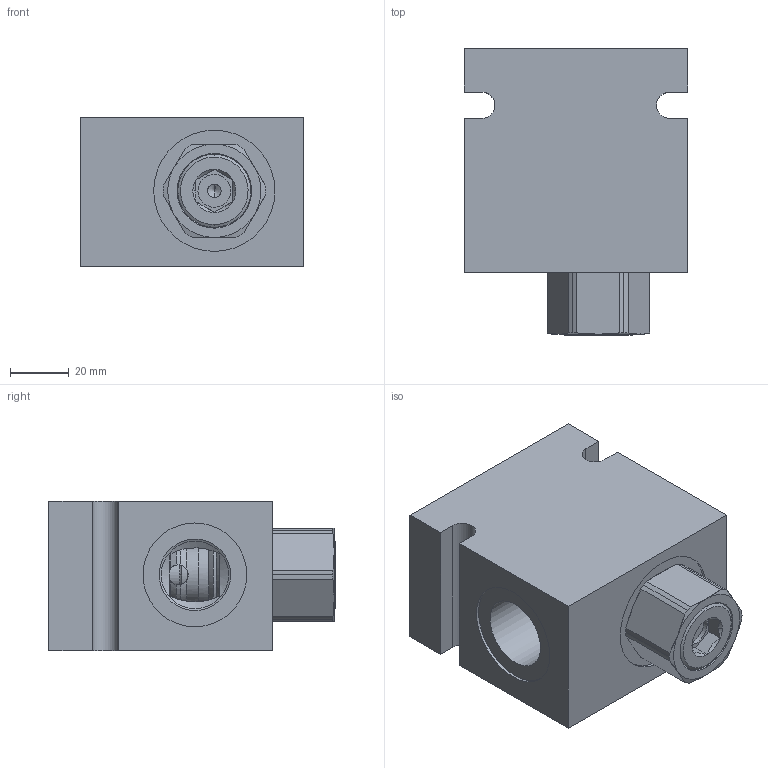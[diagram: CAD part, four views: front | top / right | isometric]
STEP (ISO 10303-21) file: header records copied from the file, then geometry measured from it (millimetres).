
FILE_DESCRIPTION( ( 'Unknown' ), '1' );
FILE_NAME( 'G:/Graphic Design/Graphic Design 2/Data Sheets/MANUAL_MECH OPERATED VALVES/4_STEP/Direct Acting Check Valves/D-HTCVA00-D2.stp', 'Unknown', ( 'Unknown' ), ( 'Unknown' ), 'PSStep 16.0.42', 'Unknown', ' ' );
FILE_SCHEMA( ( 'AUTOMOTIVE_DESIGN { 1 0 10303 214 1 1 1 1 }' ) );
Length unit declared in the file: millimetre
Products named in the file (8): HTCVA00; HTCVA00-3D Full1; HTCVA00-3D Full2; HTCVA00-3D Full3; HTCVA00-3D Full4; Assem1; B-DHTD2
Assembly tree (7 placements, depth 3):
  Assem1
    B-DHTD2
    HTCVA00
      HTCVA00-3D Full1
      HTCVA00-3D Full2
      HTCVA00-3D Full3
      HTCVA00-3D Full4
      HTCVA00-3D Full4
Bounding box: 76.2 x 97.42 x 50.8 mm (x, y, z)
Surface area: 48684.8 mm2 (no closed solid volume)
Topology: 0 solids, 235 shells, 235 faces, 1069 edges, 1040 vertices
Faces by surface type: cone 89, cylinder 81, plane 52, torus 13
Full cylindrical faces by diameter (mm): 19.355 x1, 22 x1, 23 x2, 23.724 x1, 23.825 x1, 24.3 x4, 25.463 x2, 35.33 x2, 41.275 x1
Entity records: 17772 total; most frequent: CARTESIAN_POINT 8290, DIRECTION 1434, VERTEX_POINT 1026, ORIENTED_EDGE 1024, EDGE_CURVE 1024, AXIS2_PLACEMENT_3D 552, B_SPLINE_CURVE_WITH_KNOTS 386, LINE 330
